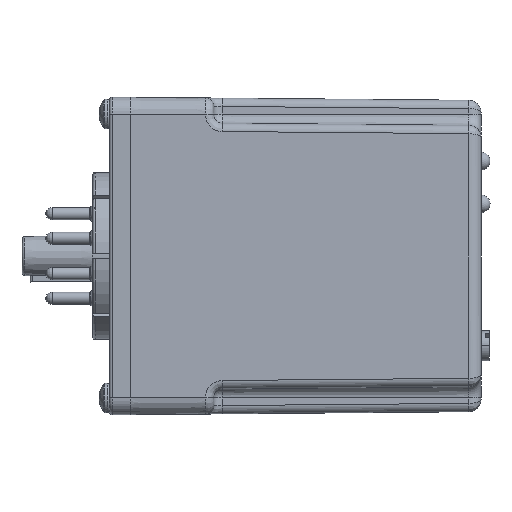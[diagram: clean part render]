
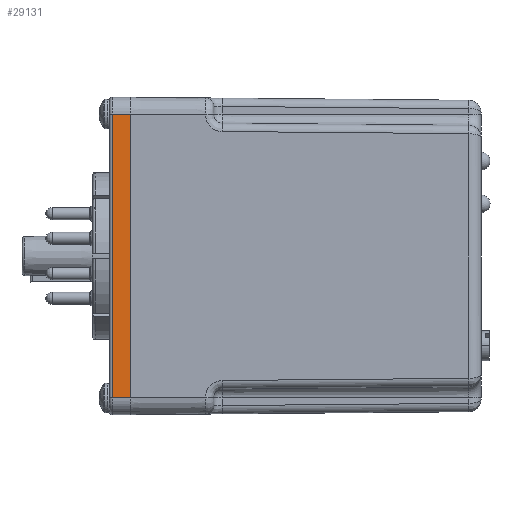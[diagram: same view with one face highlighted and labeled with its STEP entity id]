
A CAD part, left-side view. The second image highlights one B-rep face of the part: STEP entity #29131.
In plain terms, the highlighted planar face has unit normal (-1, 0, 0).
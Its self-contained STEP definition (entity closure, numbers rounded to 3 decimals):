
#8993 = PLANE('',#8994);
#8994 = AXIS2_PLACEMENT_3D('',#8995,#8996,#8997);
#8995 = CARTESIAN_POINT('',(-22.225,94.132,-30.163));
#8996 = DIRECTION('',(0.,1.,0.));
#8997 = DIRECTION('',(1.,0.,-0.));
#15916 = VERTEX_POINT('',#15917);
#15917 = CARTESIAN_POINT('',(-22.225,94.132,26.988));
#15936 = CYLINDRICAL_SURFACE('',#15937,3.175);
#15937 = AXIS2_PLACEMENT_3D('',#15938,#15939,#15940);
#15938 = CARTESIAN_POINT('',(-19.05,94.132,26.988));
#15939 = DIRECTION('',(0.,1.,0.));
#15940 = DIRECTION('',(0.,0.,-1.));
#15948 = EDGE_CURVE('',#15949,#15916,#15951,.T.);
#15949 = VERTEX_POINT('',#15950);
#15950 = CARTESIAN_POINT('',(-22.225,94.132,-26.988));
#15951 = SURFACE_CURVE('',#15952,(#15956,#15963),.PCURVE_S1.);
#15952 = LINE('',#15953,#15954);
#15953 = CARTESIAN_POINT('',(-22.225,94.132,-30.163));
#15954 = VECTOR('',#15955,1.);
#15955 = DIRECTION('',(0.,-0.,1.));
#15956 = PCURVE('',#8993,#15957);
#15957 = DEFINITIONAL_REPRESENTATION('',(#15958),#15962);
#15958 = LINE('',#15959,#15960);
#15959 = CARTESIAN_POINT('',(0.,0.));
#15960 = VECTOR('',#15961,1.);
#15961 = DIRECTION('',(0.,-1.));
#15962 = ( GEOMETRIC_REPRESENTATION_CONTEXT(2) 
PARAMETRIC_REPRESENTATION_CONTEXT() REPRESENTATION_CONTEXT('2D SPACE',''
  ) );
#15963 = PCURVE('',#15964,#15969);
#15964 = PLANE('',#15965);
#15965 = AXIS2_PLACEMENT_3D('',#15966,#15967,#15968);
#15966 = CARTESIAN_POINT('',(-22.225,94.132,-30.163));
#15967 = DIRECTION('',(1.,0.,0.));
#15968 = DIRECTION('',(0.,0.,-1.));
#15969 = DEFINITIONAL_REPRESENTATION('',(#15970),#15974);
#15970 = LINE('',#15971,#15972);
#15971 = CARTESIAN_POINT('',(0.,0.));
#15972 = VECTOR('',#15973,1.);
#15973 = DIRECTION('',(-1.,0.));
#15974 = ( GEOMETRIC_REPRESENTATION_CONTEXT(2) 
PARAMETRIC_REPRESENTATION_CONTEXT() REPRESENTATION_CONTEXT('2D SPACE',''
  ) );
#15997 = CYLINDRICAL_SURFACE('',#15998,3.175);
#15998 = AXIS2_PLACEMENT_3D('',#15999,#16000,#16001);
#15999 = CARTESIAN_POINT('',(-19.05,98.095,-26.988));
#16000 = DIRECTION('',(0.,-1.,0.));
#16001 = DIRECTION('',(0.,0.,1.));
#24210 = CYLINDRICAL_SURFACE('',#24211,0.508);
#24211 = AXIS2_PLACEMENT_3D('',#24212,#24213,#24214);
#24212 = CARTESIAN_POINT('',(-21.717,97.587,-30.163));
#24213 = DIRECTION('',(0.,0.,1.));
#24214 = DIRECTION('',(1.,0.,0.));
#29131 = ADVANCED_FACE('',(#29132),#15964,.F.);
#29132 = FACE_BOUND('',#29133,.T.);
#29133 = EDGE_LOOP('',(#29134,#29157,#29180,#29201));
#29134 = ORIENTED_EDGE('',*,*,#29135,.T.);
#29135 = EDGE_CURVE('',#15916,#29136,#29138,.T.);
#29136 = VERTEX_POINT('',#29137);
#29137 = CARTESIAN_POINT('',(-22.225,97.587,26.988));
#29138 = SURFACE_CURVE('',#29139,(#29143,#29150),.PCURVE_S1.);
#29139 = LINE('',#29140,#29141);
#29140 = CARTESIAN_POINT('',(-22.225,94.132,26.988));
#29141 = VECTOR('',#29142,1.);
#29142 = DIRECTION('',(0.,1.,0.));
#29143 = PCURVE('',#15964,#29144);
#29144 = DEFINITIONAL_REPRESENTATION('',(#29145),#29149);
#29145 = LINE('',#29146,#29147);
#29146 = CARTESIAN_POINT('',(-57.15,0.));
#29147 = VECTOR('',#29148,1.);
#29148 = DIRECTION('',(0.,1.));
#29149 = ( GEOMETRIC_REPRESENTATION_CONTEXT(2) 
PARAMETRIC_REPRESENTATION_CONTEXT() REPRESENTATION_CONTEXT('2D SPACE',''
  ) );
#29150 = PCURVE('',#15936,#29151);
#29151 = DEFINITIONAL_REPRESENTATION('',(#29152),#29156);
#29152 = LINE('',#29153,#29154);
#29153 = CARTESIAN_POINT('',(1.571,0.));
#29154 = VECTOR('',#29155,1.);
#29155 = DIRECTION('',(0.,1.));
#29156 = ( GEOMETRIC_REPRESENTATION_CONTEXT(2) 
PARAMETRIC_REPRESENTATION_CONTEXT() REPRESENTATION_CONTEXT('2D SPACE',''
  ) );
#29157 = ORIENTED_EDGE('',*,*,#29158,.T.);
#29158 = EDGE_CURVE('',#29136,#29159,#29161,.T.);
#29159 = VERTEX_POINT('',#29160);
#29160 = CARTESIAN_POINT('',(-22.225,97.587,-26.988));
#29161 = SURFACE_CURVE('',#29162,(#29166,#29173),.PCURVE_S1.);
#29162 = LINE('',#29163,#29164);
#29163 = CARTESIAN_POINT('',(-22.225,97.587,-30.163));
#29164 = VECTOR('',#29165,1.);
#29165 = DIRECTION('',(0.,0.,-1.));
#29166 = PCURVE('',#15964,#29167);
#29167 = DEFINITIONAL_REPRESENTATION('',(#29168),#29172);
#29168 = LINE('',#29169,#29170);
#29169 = CARTESIAN_POINT('',(0.,3.454));
#29170 = VECTOR('',#29171,1.);
#29171 = DIRECTION('',(1.,0.));
#29172 = ( GEOMETRIC_REPRESENTATION_CONTEXT(2) 
PARAMETRIC_REPRESENTATION_CONTEXT() REPRESENTATION_CONTEXT('2D SPACE',''
  ) );
#29173 = PCURVE('',#24210,#29174);
#29174 = DEFINITIONAL_REPRESENTATION('',(#29175),#29179);
#29175 = LINE('',#29176,#29177);
#29176 = CARTESIAN_POINT('',(3.142,0.));
#29177 = VECTOR('',#29178,1.);
#29178 = DIRECTION('',(0.,-1.));
#29179 = ( GEOMETRIC_REPRESENTATION_CONTEXT(2) 
PARAMETRIC_REPRESENTATION_CONTEXT() REPRESENTATION_CONTEXT('2D SPACE',''
  ) );
#29180 = ORIENTED_EDGE('',*,*,#29181,.T.);
#29181 = EDGE_CURVE('',#29159,#15949,#29182,.T.);
#29182 = SURFACE_CURVE('',#29183,(#29187,#29194),.PCURVE_S1.);
#29183 = LINE('',#29184,#29185);
#29184 = CARTESIAN_POINT('',(-22.225,94.132,-26.988));
#29185 = VECTOR('',#29186,1.);
#29186 = DIRECTION('',(0.,-1.,0.));
#29187 = PCURVE('',#15964,#29188);
#29188 = DEFINITIONAL_REPRESENTATION('',(#29189),#29193);
#29189 = LINE('',#29190,#29191);
#29190 = CARTESIAN_POINT('',(-3.175,0.));
#29191 = VECTOR('',#29192,1.);
#29192 = DIRECTION('',(0.,-1.));
#29193 = ( GEOMETRIC_REPRESENTATION_CONTEXT(2) 
PARAMETRIC_REPRESENTATION_CONTEXT() REPRESENTATION_CONTEXT('2D SPACE',''
  ) );
#29194 = PCURVE('',#15997,#29195);
#29195 = DEFINITIONAL_REPRESENTATION('',(#29196),#29200);
#29196 = LINE('',#29197,#29198);
#29197 = CARTESIAN_POINT('',(1.571,3.962));
#29198 = VECTOR('',#29199,1.);
#29199 = DIRECTION('',(0.,1.));
#29200 = ( GEOMETRIC_REPRESENTATION_CONTEXT(2) 
PARAMETRIC_REPRESENTATION_CONTEXT() REPRESENTATION_CONTEXT('2D SPACE',''
  ) );
#29201 = ORIENTED_EDGE('',*,*,#15948,.T.);
